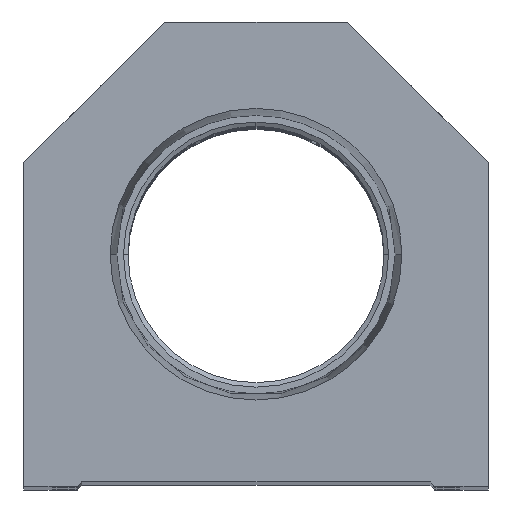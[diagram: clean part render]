
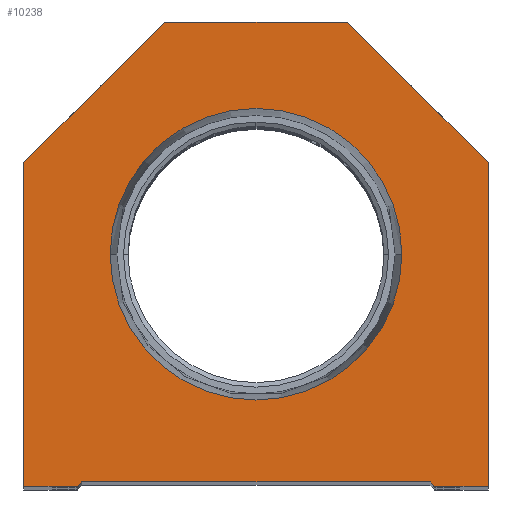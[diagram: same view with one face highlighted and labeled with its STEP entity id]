
A CAD part, top view. The second image highlights one B-rep face of the part: STEP entity #10238.
In plain terms, the highlighted planar face has unit normal (0, 0, 1).
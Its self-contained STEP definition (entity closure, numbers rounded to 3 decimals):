
#112 = CARTESIAN_POINT ( 'NONE',  ( -19.55, 0., 0. ) ) ;
#615 = LINE ( 'NONE', #3884, #15530 ) ;
#1270 = VERTEX_POINT ( 'NONE', #4141 ) ;
#1491 = EDGE_CURVE ( 'NONE', #12444, #18341, #8664, .T. ) ;
#2465 = ORIENTED_EDGE ( 'NONE', *, *, #4633, .T. ) ;
#2532 = VERTEX_POINT ( 'NONE', #8648 ) ;
#2619 = CARTESIAN_POINT ( 'NONE',  ( -25.4, 35.4, 0. ) ) ;
#2728 = VECTOR ( 'NONE', #5502, 1000. ) ;
#2750 = CIRCLE ( 'NONE', #8884, 15.947 ) ;
#2898 = ORIENTED_EDGE ( 'NONE', *, *, #3854, .F. ) ;
#3187 = DIRECTION ( 'NONE',  ( 0., 0., 1. ) ) ;
#3217 = CARTESIAN_POINT ( 'NONE',  ( 19.05, 0.5, 0. ) ) ;
#3364 = ORIENTED_EDGE ( 'NONE', *, *, #17728, .T. ) ;
#3476 = CARTESIAN_POINT ( 'NONE',  ( 0., 0., 0. ) ) ;
#3554 = ORIENTED_EDGE ( 'NONE', *, *, #8639, .T. ) ;
#3821 = CARTESIAN_POINT ( 'NONE',  ( -10., 50.8, 0. ) ) ;
#3854 = EDGE_CURVE ( 'NONE', #2532, #18406, #2750, .T. ) ;
#3884 = CARTESIAN_POINT ( 'NONE',  ( 25.4, 35.4, 0. ) ) ;
#3934 = EDGE_CURVE ( 'NONE', #5990, #12444, #9231, .T. ) ;
#4141 = CARTESIAN_POINT ( 'NONE',  ( 10., 50.8, 0. ) ) ;
#4205 = LINE ( 'NONE', #2619, #2728 ) ;
#4211 = CIRCLE ( 'NONE', #12110, 15.947 ) ;
#4580 = LINE ( 'NONE', #6388, #13295 ) ;
#4633 = EDGE_CURVE ( 'NONE', #20206, #1270, #615, .T. ) ;
#4655 = VERTEX_POINT ( 'NONE', #11948 ) ;
#4689 = EDGE_CURVE ( 'NONE', #20953, #13535, #9009, .T. ) ;
#4745 = EDGE_CURVE ( 'NONE', #4655, #20953, #16495, .T. ) ;
#4783 = ORIENTED_EDGE ( 'NONE', *, *, #18835, .T. ) ;
#4973 = FACE_BOUND ( 'NONE', #11414, .T. ) ;
#5255 = ORIENTED_EDGE ( 'NONE', *, *, #18179, .T. ) ;
#5502 = DIRECTION ( 'NONE',  ( -0.707, -0.707, 0. ) ) ;
#5695 = DIRECTION ( 'NONE',  ( 1., 0., 0. ) ) ;
#5767 = CARTESIAN_POINT ( 'NONE',  ( 19.05, 0., 0. ) ) ;
#5990 = VERTEX_POINT ( 'NONE', #3217 ) ;
#6216 = ORIENTED_EDGE ( 'NONE', *, *, #16335, .F. ) ;
#6318 = CARTESIAN_POINT ( 'NONE',  ( 10., 50.8, 0. ) ) ;
#6388 = CARTESIAN_POINT ( 'NONE',  ( -19.05, 0.5, 0. ) ) ;
#6856 = CARTESIAN_POINT ( 'NONE',  ( 25.4, 35.4, 0. ) ) ;
#6976 = FACE_OUTER_BOUND ( 'NONE', #10764, .T. ) ;
#7508 = CARTESIAN_POINT ( 'NONE',  ( -25.4, 35.4, 0. ) ) ;
#8024 = DIRECTION ( 'NONE',  ( 0., 1., 0. ) ) ;
#8639 = EDGE_CURVE ( 'NONE', #14089, #4655, #20613, .T. ) ;
#8648 = CARTESIAN_POINT ( 'NONE',  ( 15.947, 25.4, 0. ) ) ;
#8664 = LINE ( 'NONE', #5767, #17433 ) ;
#8884 = AXIS2_PLACEMENT_3D ( 'NONE', #19610, #3187, #16272 ) ;
#9009 = LINE ( 'NONE', #16991, #14171 ) ;
#9190 = CARTESIAN_POINT ( 'NONE',  ( -25.4, 0., 0. ) ) ;
#9231 = LINE ( 'NONE', #14201, #15518 ) ;
#9827 = VECTOR ( 'NONE', #8024, 1000. ) ;
#10228 = DIRECTION ( 'NONE',  ( 0., 0., 1. ) ) ;
#10238 = ADVANCED_FACE ( 'NONE', ( #4973, #6976 ), #16569, .T. ) ;
#10764 = EDGE_LOOP ( 'NONE', ( #12144, #20171, #5255, #12809, #12229, #3364, #2465, #4783, #16482, #3554 ) ) ;
#11196 = CARTESIAN_POINT ( 'NONE',  ( 19.55, 0., 0. ) ) ;
#11414 = EDGE_LOOP ( 'NONE', ( #2898, #6216 ) ) ;
#11525 = DIRECTION ( 'NONE',  ( 1., 0., 0. ) ) ;
#11948 = CARTESIAN_POINT ( 'NONE',  ( -25.4, 0., 0. ) ) ;
#12002 = DIRECTION ( 'NONE',  ( 0., 0., 1. ) ) ;
#12110 = AXIS2_PLACEMENT_3D ( 'NONE', #18573, #12002, #16522 ) ;
#12144 = ORIENTED_EDGE ( 'NONE', *, *, #4745, .T. ) ;
#12184 = CARTESIAN_POINT ( 'NONE',  ( -15.947, 25.4, 0. ) ) ;
#12229 = ORIENTED_EDGE ( 'NONE', *, *, #1491, .T. ) ;
#12444 = VERTEX_POINT ( 'NONE', #11196 ) ;
#12809 = ORIENTED_EDGE ( 'NONE', *, *, #3934, .T. ) ;
#12872 = DIRECTION ( 'NONE',  ( -1., 0., 0. ) ) ;
#13175 = DIRECTION ( 'NONE',  ( 1., 0., 0. ) ) ;
#13295 = VECTOR ( 'NONE', #13175, 1000. ) ;
#13535 = VERTEX_POINT ( 'NONE', #18769 ) ;
#13879 = DIRECTION ( 'NONE',  ( 0.707, -0.707, 0. ) ) ;
#14089 = VERTEX_POINT ( 'NONE', #7508 ) ;
#14171 = VECTOR ( 'NONE', #16892, 1000. ) ;
#14201 = CARTESIAN_POINT ( 'NONE',  ( 9.775, 9.775, 0. ) ) ;
#15358 = VECTOR ( 'NONE', #12872, 1000. ) ;
#15518 = VECTOR ( 'NONE', #13879, 1000. ) ;
#15530 = VECTOR ( 'NONE', #18719, 1000. ) ;
#15656 = DIRECTION ( 'NONE',  ( 0., -1., 0. ) ) ;
#16213 = LINE ( 'NONE', #18139, #9827 ) ;
#16272 = DIRECTION ( 'NONE',  ( 1., 0., 0. ) ) ;
#16335 = EDGE_CURVE ( 'NONE', #18406, #2532, #4211, .T. ) ;
#16482 = ORIENTED_EDGE ( 'NONE', *, *, #21022, .T. ) ;
#16495 = LINE ( 'NONE', #20429, #20023 ) ;
#16522 = DIRECTION ( 'NONE',  ( 1., 0., 0. ) ) ;
#16569 = PLANE ( 'NONE',  #19931 ) ;
#16892 = DIRECTION ( 'NONE',  ( 0.707, 0.707, 0. ) ) ;
#16991 = CARTESIAN_POINT ( 'NONE',  ( -9.775, 9.775, 0. ) ) ;
#17433 = VECTOR ( 'NONE', #20607, 1000. ) ;
#17728 = EDGE_CURVE ( 'NONE', #18341, #20206, #16213, .T. ) ;
#18139 = CARTESIAN_POINT ( 'NONE',  ( 25.4, 0., 0. ) ) ;
#18179 = EDGE_CURVE ( 'NONE', #13535, #5990, #4580, .T. ) ;
#18338 = VERTEX_POINT ( 'NONE', #3821 ) ;
#18341 = VERTEX_POINT ( 'NONE', #18557 ) ;
#18406 = VERTEX_POINT ( 'NONE', #12184 ) ;
#18557 = CARTESIAN_POINT ( 'NONE',  ( 25.4, 0., 0. ) ) ;
#18573 = CARTESIAN_POINT ( 'NONE',  ( 0., 25.4, 0. ) ) ;
#18719 = DIRECTION ( 'NONE',  ( -0.707, 0.707, 0. ) ) ;
#18769 = CARTESIAN_POINT ( 'NONE',  ( -19.05, 0.5, 0. ) ) ;
#18835 = EDGE_CURVE ( 'NONE', #1270, #18338, #19770, .T. ) ;
#19610 = CARTESIAN_POINT ( 'NONE',  ( 0., 25.4, 0. ) ) ;
#19770 = LINE ( 'NONE', #6318, #15358 ) ;
#19909 = VECTOR ( 'NONE', #15656, 1000. ) ;
#19931 = AXIS2_PLACEMENT_3D ( 'NONE', #3476, #10228, #11525 ) ;
#20023 = VECTOR ( 'NONE', #5695, 1000. ) ;
#20171 = ORIENTED_EDGE ( 'NONE', *, *, #4689, .T. ) ;
#20206 = VERTEX_POINT ( 'NONE', #6856 ) ;
#20429 = CARTESIAN_POINT ( 'NONE',  ( -19.05, 0., 0. ) ) ;
#20607 = DIRECTION ( 'NONE',  ( 1., 0., 0. ) ) ;
#20613 = LINE ( 'NONE', #9190, #19909 ) ;
#20953 = VERTEX_POINT ( 'NONE', #112 ) ;
#21022 = EDGE_CURVE ( 'NONE', #18338, #14089, #4205, .T. ) ;
